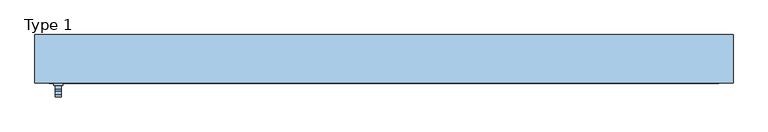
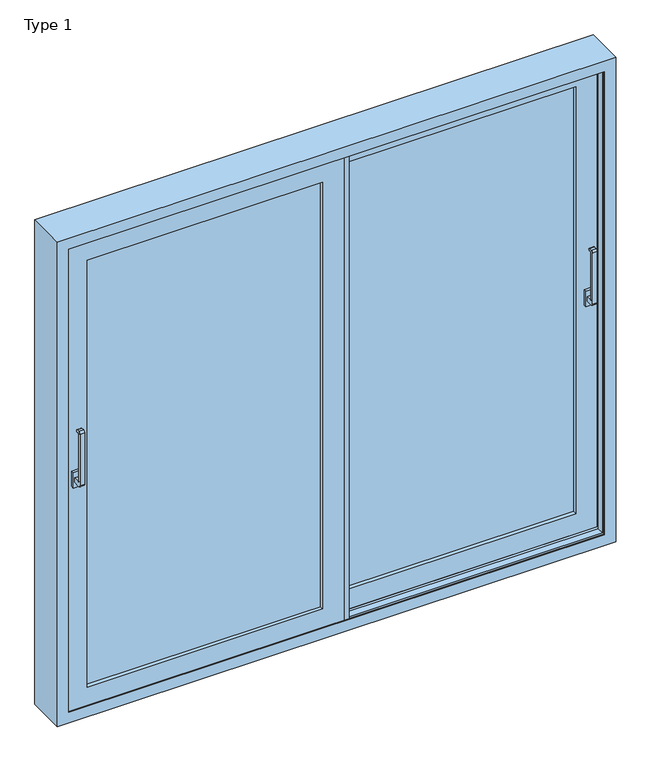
"""IFC4 building model written with IfcOpenShell, lengths in millimetres: window geometry, ETEM_E50_Double_Fly Screen_Lift_Sliding : Type 1."""

from ifc_helpers import new_model, si_unit, point, frame, frame_2d, origin, place, context, project, spatial, polyline, circle_curve, ellipse_curve, trimmed, segment, composite_curve, outline, extrude, faceted_brep, source, transform, mapped, element, save
from ifc_brep_helpers import plane_surface, cylinder_surface, revolved_surface, advanced_brep


def type_1_c6146090(model_context):
    return source(origin(), model_context, "Body", "SolidModel", [
        extrude(outline(polyline([(1135.0, -4.2), (1105.0, -4.2), (1105.0, 8.8), (1135.0, 8.8), (1135.0, -4.2)])), frame((0.0, 0.0, 1065.0), z_axis=(0.0, 0.0, 1.0), x_axis=(1.0, 0.0, 0.0)), (0.0, 0.0, 1.0), 70.0),
        extrude(outline(composite_curve([segment(polyline([(-4.2, 1090.0), (-35.7736848, 1090.0)]), True, "CONTINUOUS"), segment(trimmed(circle_curve(frame_2d((-35.7736848, 1098.4263152)), 8.4263152), [point((-35.7736848, 1090.0))], [point((-44.2, 1098.4263152))], False, "CARTESIAN"), True, "CONTINUOUS"), segment(polyline([(-44.2, 1098.4263152), (-44.2, 1331.5736848)]), True, "CONTINUOUS"), segment(trimmed(circle_curve(frame_2d((-35.7736848, 1331.5736848)), 8.4263152), [point((-44.2, 1331.5736848))], [point((-35.7736848, 1340.0))], False, "CARTESIAN"), True, "CONTINUOUS"), segment(polyline([(-35.7736848, 1340.0), (-24.2, 1340.0)]), True, "CONTINUOUS"), segment(trimmed(circle_curve(frame_2d((-24.2, 1335.0)), 5.0), [point((-24.2, 1340.0))], [point((-24.2, 1330.0))], False, "CARTESIAN"), True, "CONTINUOUS"), segment(polyline([(-24.2, 1330.0), (-30.6644661, 1330.0)]), True, "CONTINUOUS"), segment(trimmed(circle_curve(frame_2d((-30.6644661, 1326.4644661)), 3.5355339), [point((-30.6644661, 1330.0))], [point((-34.2, 1326.4644661))], True, "CARTESIAN"), True, "CONTINUOUS"), segment(polyline([(-34.2, 1326.4644661), (-34.2, 1113.5355339)]), True, "CONTINUOUS"), segment(trimmed(circle_curve(frame_2d((-30.6644661, 1113.5355339)), 3.5355339), [point((-34.2, 1113.5355339))], [point((-30.6644661, 1110.0))], True, "CARTESIAN"), True, "CONTINUOUS"), segment(polyline([(-30.6644661, 1110.0), (-4.2, 1110.0), (-4.2, 1090.0)]), True, "CONTINUOUS")], self_intersect=False)), frame((1110.0, 0.0, 0.0), z_axis=(1.0, 0.0, 0.0), x_axis=(0.0, 1.0, 0.0)), (0.0, 0.0, 1.0), 20.0),
        extrude(outline(polyline([(-1104.999965, -69.2), (-1134.999965, -69.2), (-1134.999965, -56.2), (-1104.999965, -56.2), (-1104.999965, -69.2)])), frame((0.0, 0.0, 1065.0), z_axis=(0.0, 0.0, 1.0), x_axis=(1.0, 0.0, 0.0)), (0.0, 0.0, 1.0), 70.0),
        extrude(outline(composite_curve([segment(polyline([(-69.2, 1090.0), (-100.7736848, 1090.0)]), True, "CONTINUOUS"), segment(trimmed(circle_curve(frame_2d((-100.7736848, 1098.4263152)), 8.4263152), [point((-100.7736848, 1090.0))], [point((-109.2, 1098.4263152))], False, "CARTESIAN"), True, "CONTINUOUS"), segment(polyline([(-109.2, 1098.4263152), (-109.2, 1331.5736848)]), True, "CONTINUOUS"), segment(trimmed(circle_curve(frame_2d((-100.7736848, 1331.5736848)), 8.4263152), [point((-109.2, 1331.5736848))], [point((-100.7736848, 1340.0))], False, "CARTESIAN"), True, "CONTINUOUS"), segment(polyline([(-100.7736848, 1340.0), (-89.2, 1340.0)]), True, "CONTINUOUS"), segment(trimmed(circle_curve(frame_2d((-89.2, 1335.0)), 5.0), [point((-89.2, 1340.0))], [point((-89.2, 1330.0))], False, "CARTESIAN"), True, "CONTINUOUS"), segment(polyline([(-89.2, 1330.0), (-95.6644661, 1330.0)]), True, "CONTINUOUS"), segment(trimmed(circle_curve(frame_2d((-95.6644661, 1326.4644661)), 3.5355339), [point((-95.6644661, 1330.0))], [point((-99.2, 1326.4644661))], True, "CARTESIAN"), True, "CONTINUOUS"), segment(polyline([(-99.2, 1326.4644661), (-99.2, 1113.5355339)]), True, "CONTINUOUS"), segment(trimmed(circle_curve(frame_2d((-95.6644661, 1113.5355339)), 3.5355339), [point((-99.2, 1113.5355339))], [point((-95.6644661, 1110.0))], True, "CARTESIAN"), True, "CONTINUOUS"), segment(polyline([(-95.6644661, 1110.0), (-69.2, 1110.0), (-69.2, 1090.0)]), True, "CONTINUOUS")], self_intersect=False)), frame((-1129.999965, 0.0, 0.0), z_axis=(1.0, 0.0, 0.0), x_axis=(0.0, 1.0, 0.0)), (0.0, 0.0, 1.0), 20.0),
        faceted_brep([(-56.0, -56.2, 2069.0), (-56.0, -6.2, 2069.0), (-56.0, -6.2, 131.0), (-56.0, -56.2, 131.0), (35.5, -6.2, 39.5), (-1160.499965, -6.2, 39.5), (-1160.499965, -6.2, 2160.5), (35.5, -6.2, 2160.5), (-1068.999965, -6.2, 2069.0), (-1068.999965, -6.2, 131.0), (-1068.999965, -56.2, 131.0), (35.5, -56.2, 2160.5), (-1160.499965, -56.2, 2160.5), (-1160.499965, -56.2, 39.5), (35.5, -56.2, 39.5), (-1068.999965, -56.2, 2069.0), (35.5, -51.5, 2160.5), (35.5, -51.5, 39.5), (-1160.499965, -51.5, 39.5), (-1160.499965, -51.5, 2160.5), (6.3, -51.5, 2131.3), (-1131.299965, -51.5, 2131.3), (-1131.299965, -51.5, 68.7), (6.3, -51.5, 68.7), (6.3, -10.9, 2131.3), (6.3, -10.9, 68.7), (-1131.299965, -10.9, 68.7), (35.5, -10.9, 2160.5), (-1160.499965, -10.9, 2160.5), (-1160.499965, -10.9, 39.5), (35.5, -10.9, 39.5), (-1131.299965, -10.9, 2131.3)], [[[0, 1, 2, 3]], [[4, 5, 6, 7], [1, 8, 9, 2]], [[3, 2, 9, 10]], [[11, 12, 13, 14], [3, 10, 15, 0]], [[16, 11, 14, 17]], [[17, 14, 13, 18]], [[17, 18, 19, 16], [20, 21, 22, 23]], [[24, 20, 23, 25]], [[25, 23, 22, 26]], [[27, 28, 29, 30], [25, 26, 31, 24]], [[7, 27, 30, 4]], [[4, 30, 29, 5]], [[10, 9, 8, 15]], [[18, 13, 12, 19]], [[26, 22, 21, 31]], [[5, 29, 28, 6]], [[15, 8, 1, 0]], [[19, 12, 11, 16]], [[31, 21, 20, 24]], [[6, 28, 27, 7]]]),
        faceted_brep([(56.0, 58.8, 2069.0), (56.0, 8.8, 2069.0), (56.0, 8.8, 131.0), (56.0, 58.8, 131.0), (1068.999965, 8.8, 131.0), (1068.999965, 58.8, 131.0), (1160.499965, 8.8, 39.5), (1160.499965, 8.8, 2160.5), (-35.5, 8.8, 2160.5), (-35.5, 8.8, 39.5), (1068.999965, 8.8, 2069.0), (1068.999965, 58.8, 2069.0), (-35.5, 58.8, 39.5), (-35.5, 58.8, 2160.5), (1160.499965, 58.8, 2160.5), (1160.499965, 58.8, 39.5), (-35.5, 54.1, 2160.5), (-35.5, 54.1, 39.5), (1160.499965, 54.1, 39.5), (1160.499965, 54.1, 2160.5), (-6.3, 54.1, 68.7), (-6.3, 54.1, 2131.3), (1131.299965, 54.1, 2131.3), (1131.299965, 54.1, 68.7), (-6.3, 13.5, 2131.3), (-6.3, 13.5, 68.7), (1131.299965, 13.5, 68.7), (1131.299965, 13.5, 2131.3), (-35.5, 13.5, 39.5), (-35.5, 13.5, 2160.5), (1160.499965, 13.5, 2160.5), (1160.499965, 13.5, 39.5)], [[[0, 1, 2, 3]], [[3, 2, 4, 5]], [[6, 7, 8, 9], [2, 1, 10, 4]], [[5, 4, 10, 11]], [[12, 13, 14, 15], [5, 11, 0, 3]], [[16, 13, 12, 17]], [[17, 12, 15, 18]], [[18, 15, 14, 19]], [[18, 19, 16, 17], [20, 21, 22, 23]], [[24, 21, 20, 25]], [[25, 20, 23, 26]], [[26, 23, 22, 27]], [[28, 29, 30, 31], [26, 27, 24, 25]], [[8, 29, 28, 9]], [[9, 28, 31, 6]], [[6, 31, 30, 7]], [[11, 10, 1, 0]], [[19, 14, 13, 16]], [[27, 22, 21, 24]], [[7, 30, 29, 8]]]),
        extrude(outline(polyline([(56.0, -56.2), (35.5, -56.2), (35.5, 4.8), (56.0, 4.8), (56.0, -56.2)])), frame((0.0, 0.0, 39.5), z_axis=(0.0, 0.0, 1.0), x_axis=(1.0, 0.0, 0.0)), (0.0, 0.0, 1.0), 2121.0),
        extrude(outline(polyline([(-56.0, -2.2), (-56.0, 58.8), (-35.5, 58.8), (-35.5, -2.2), (-56.0, -2.2)])), frame((0.0, 0.0, 39.5), z_axis=(0.0, 0.0, 1.0), x_axis=(1.0, 0.0, 0.0)), (0.0, 0.0, 1.0), 2121.0),
        extrude(outline(polyline([(-56.0, -40.2), (-1068.999965, -40.2), (-1068.999965, -35.2), (-56.0, -35.2), (-56.0, -40.2)])), frame((0.0, 0.0, 131.0), z_axis=(0.0, 0.0, 1.0), x_axis=(1.0, 0.0, 0.0)), (0.0, 0.0, 1.0), 1938.0),
        extrude(outline(polyline([(56.0, 50.7998789), (1068.999965, 50.7998789), (1068.999965, 45.7998789), (56.0, 45.7998789), (56.0, 50.7998789)])), frame((0.0, 0.0, 131.0), z_axis=(0.0, 0.0, 1.0), x_axis=(1.0, 0.0, 0.0)), (0.0, 0.0, 1.0), 1938.0),
        faceted_brep([(1200.0, 105.0, 2200.0), (1200.0, -61.8, 2200.0), (1200.0, -61.8, 0.0), (1200.0, 105.0, 0.0), (-1200.0, -61.8, 2200.0), (-1200.0, -61.8, 0.0), (1151.5, -61.8, 48.5), (-1151.5, -61.8, 48.5), (-1151.5, -61.8, 2151.5), (1151.5, -61.8, 2151.5), (-1200.0, 105.0, 0.0), (-1200.0, 105.0, 2200.0), (1180.2, 105.0, 2180.2), (-1180.2, 105.0, 2180.2), (-1180.2, 105.0, 19.8), (1180.2, 105.0, 19.8), (1178.2, 89.3, 2178.2), (1178.2, 93.5, 2178.2), (1178.2, 93.5, 21.8), (1178.2, 89.3, 21.8), (-1178.2, 93.5, 21.8), (-1178.2, 89.3, 21.8), (-1178.2, 89.3, 2178.2), (1159.5, 89.3, 2159.5), (-1159.5, 89.3, 2159.5), (-1159.5, 89.3, 40.5), (1159.5, 89.3, 40.5), (1159.5, 90.8, 2159.5), (1159.5, 90.8, 40.5), (-1159.5, 90.8, 40.5), (-1159.5, 90.8, 2159.5), (1151.5, 90.8, 2151.5), (-1151.5, 90.8, 2151.5), (-1151.5, 90.8, 48.5), (1151.5, 90.8, 48.5), (1151.5, 78.8, 2151.5), (1151.5, 78.8, 48.5), (-1151.5, 78.8, 48.5), (1159.5, 78.8, 2159.5), (-1159.5, 78.8, 2159.5), (-1159.5, 78.8, 40.5), (1159.5, 78.8, 40.5), (-1151.5, 78.8, 2151.5), (1159.5, 80.3, 2159.5), (1159.5, 80.3, 40.5), (-1159.5, 80.3, 40.5), (1178.2, 80.3, 2178.2), (-1178.2, 80.3, 2178.2), (-1178.2, 80.3, 21.8), (1178.2, 80.3, 21.8), (-1159.5, 80.3, 2159.5), (1178.2, 38.3, 2178.2), (1178.2, 38.3, 21.8), (-1178.2, 38.3, 21.8), (-1178.2, 38.3, 2178.2), (1159.5, 38.3, 2159.5), (-1159.5, 38.3, 2159.5), (-1159.5, 38.3, 40.5), (1159.5, 38.3, 40.5), (1159.5, 49.8, 2159.5), (1159.5, 49.8, 40.5), (-1159.5, 49.8, 40.5), (-1159.5, 49.8, 2159.5), (1151.5, 49.8, 2151.5), (-1151.5, 49.8, 2151.5), (-1151.5, 49.8, 48.5), (1151.5, 49.8, 48.5), (1151.5, 17.8, 2151.5), (1151.5, 17.8, 48.5), (-1151.5, 17.8, 48.5), (1159.5, 17.8, 2159.5), (-1159.5, 17.8, 2159.5), (-1159.5, 17.8, 40.5), (1159.5, 17.8, 40.5), (-1151.5, 17.8, 2151.5), (1159.5, 29.3, 2159.5), (1159.5, 29.3, 40.5), (-1159.5, 29.3, 40.5), (1178.2, 29.3, 2178.2), (-1178.2, 29.3, 2178.2), (-1178.2, 29.3, 21.8), (1178.2, 29.3, 21.8), (-1159.5, 29.3, 2159.5), (1178.2, -26.7, 2178.2), (1178.2, -26.7, 21.8), (-1178.2, -26.7, 21.8), (-1178.2, -26.7, 2178.2), (1159.5, -26.7, 2159.5), (-1159.5, -26.7, 2159.5), (-1159.5, -26.7, 40.5), (1159.5, -26.7, 40.5), (1159.5, -15.2, 2159.5), (1159.5, -15.2, 40.5), (-1159.5, -15.2, 40.5), (-1159.5, -15.2, 2159.5), (1151.5, -15.2, 2151.5), (-1151.5, -15.2, 2151.5), (-1151.5, -15.2, 48.5), (1151.5, -15.2, 48.5), (1151.5, -47.2, 2151.5), (1151.5, -47.2, 48.5), (-1151.5, -47.2, 48.5), (1159.5, -47.2, 2159.5), (-1159.5, -47.2, 2159.5), (-1159.5, -47.2, 40.5), (1159.5, -47.2, 40.5), (-1151.5, -47.2, 2151.5), (1159.5, -35.7, 2159.5), (1159.5, -35.7, 40.5), (-1159.5, -35.7, 40.5), (1178.2, -35.7, 2178.2), (-1178.2, -35.7, 2178.2), (-1178.2, -35.7, 21.8), (1178.2, -35.7, 21.8), (-1159.5, -35.7, 2159.5), (1178.2, -58.2, 2178.2), (1178.2, -58.2, 21.8), (-1178.2, -58.2, 21.8), (-1178.2, -58.2, 2178.2), (1151.5, -58.2, 2151.5), (-1151.5, -58.2, 2151.5), (-1151.5, -58.2, 48.5), (1151.5, -58.2, 48.5), (-1178.2, 93.5, 2178.2), (1180.2, 93.5, 19.8), (-1180.2, 93.5, 19.8), (-1180.2, 93.5, 2180.2), (1180.2, 93.5, 2180.2)], [[[0, 1, 2, 3]], [[1, 4, 5, 2], [6, 7, 8, 9]], [[3, 2, 5, 10]], [[3, 10, 11, 0], [12, 13, 14, 15]], [[16, 17, 18, 19]], [[19, 18, 20, 21]], [[19, 21, 22, 16], [23, 24, 25, 26]], [[27, 23, 26, 28]], [[28, 26, 25, 29]], [[28, 29, 30, 27], [31, 32, 33, 34]], [[35, 31, 34, 36]], [[36, 34, 33, 37]], [[38, 39, 40, 41], [36, 37, 42, 35]], [[43, 38, 41, 44]], [[44, 41, 40, 45]], [[46, 47, 48, 49], [44, 45, 50, 43]], [[51, 46, 49, 52]], [[52, 49, 48, 53]], [[52, 53, 54, 51], [55, 56, 57, 58]], [[59, 55, 58, 60]], [[60, 58, 57, 61]], [[60, 61, 62, 59], [63, 64, 65, 66]], [[67, 63, 66, 68]], [[68, 66, 65, 69]], [[70, 71, 72, 73], [68, 69, 74, 67]], [[75, 70, 73, 76]], [[76, 73, 72, 77]], [[78, 79, 80, 81], [76, 77, 82, 75]], [[83, 78, 81, 84]], [[84, 81, 80, 85]], [[84, 85, 86, 83], [87, 88, 89, 90]], [[91, 87, 90, 92]], [[92, 90, 89, 93]], [[92, 93, 94, 91], [95, 96, 97, 98]], [[99, 95, 98, 100]], [[100, 98, 97, 101]], [[102, 103, 104, 105], [100, 101, 106, 99]], [[107, 102, 105, 108]], [[108, 105, 104, 109]], [[110, 111, 112, 113], [108, 109, 114, 107]], [[115, 110, 113, 116]], [[116, 113, 112, 117]], [[116, 117, 118, 115], [119, 120, 121, 122]], [[9, 119, 122, 6]], [[6, 122, 121, 7]], [[10, 5, 4, 11]], [[21, 20, 123, 22]], [[29, 25, 24, 30]], [[37, 33, 32, 42]], [[45, 40, 39, 50]], [[53, 48, 47, 54]], [[61, 57, 56, 62]], [[69, 65, 64, 74]], [[77, 72, 71, 82]], [[85, 80, 79, 86]], [[93, 89, 88, 94]], [[101, 97, 96, 106]], [[109, 104, 103, 114]], [[117, 112, 111, 118]], [[7, 121, 120, 8]], [[11, 4, 1, 0]], [[22, 123, 17, 16]], [[30, 24, 23, 27]], [[42, 32, 31, 35]], [[50, 39, 38, 43]], [[54, 47, 46, 51]], [[62, 56, 55, 59]], [[74, 64, 63, 67]], [[82, 71, 70, 75]], [[86, 79, 78, 83]], [[94, 88, 87, 91]], [[106, 96, 95, 99]], [[114, 103, 102, 107]], [[118, 111, 110, 115]], [[8, 120, 119, 9]], [[124, 125, 126, 127], [17, 123, 20, 18]], [[125, 14, 13, 126]], [[124, 15, 14, 125]], [[127, 12, 15, 124]], [[126, 13, 12, 127]]]),
        extrude(outline(polyline([(56.0, 29.8), (1068.999965, 29.8), (1068.999965, 24.8), (56.0, 24.8), (56.0, 29.8)])), frame((0.0, 0.0, 131.0), z_axis=(0.0, 0.0, 1.0), x_axis=(1.0, 0.0, 0.0)), (0.0, 0.0, 1.0), 1938.0),
        extrude(outline(polyline([(-56.0, -19.2001211), (-1068.999965, -19.2001211), (-1068.999965, -14.2001211), (-56.0, -14.2001211), (-56.0, -19.2001211)])), frame((0.0, 0.0, 131.0), z_axis=(0.0, 0.0, 1.0), x_axis=(1.0, 0.0, 0.0)), (0.0, 0.0, 1.0), 1938.0),
        extrude(outline(polyline([(-52.0, 73.8), (-1089.499965, 73.8), (-1089.499965, 74.8), (-52.0, 74.8), (-52.0, 73.8)])), frame((0.0, 0.0, 110.5), z_axis=(0.0, 0.0, 1.0), x_axis=(1.0, 0.0, 0.0)), (0.0, 0.0, 1.0), 1979.0),
        advanced_brep(
        [(19.0, 73.1542487, 2160.5), (16.0, 71.8, 2157.5), (16.0, 71.8, 42.5), (19.0, 73.1542487, 39.5), (-1157.499965, 71.8, 2157.5), (-1157.499965, 71.8, 42.5), (-27.2, 71.8, 85.7), (-1114.299965, 71.8, 85.7), (-1114.299965, 71.8, 2114.3), (-27.2, 71.8, 2114.3), (-1160.499965, 73.1542487, 39.5), (19.0, 76.3, 2160.5), (19.0, 76.3, 39.5), (-1160.499965, 76.3, 39.5), (-1160.499965, 76.3, 2160.5), (8.7, 76.3, 2150.2), (-1150.199965, 76.3, 2150.2), (-1150.199965, 76.3, 49.8), (8.7, 76.3, 49.8), (8.7, 93.3, 2150.2), (8.7, 93.3, 49.8), (-1150.199965, 93.3, 49.8), (19.0, 93.3, 2160.5), (-1160.499965, 93.3, 2160.5), (-1160.499965, 93.3, 39.5), (19.0, 93.3, 39.5), (-1150.199965, 93.3, 2150.2), (19.0, 96.4457513, 2160.5), (19.0, 96.4457513, 39.5), (-1160.499965, 96.4457513, 39.5), (16.0, 97.8, 2157.5), (16.0, 97.8, 42.5), (-1157.499965, 97.8, 42.5), (-1157.499965, 97.8, 2157.5), (-27.2, 97.8, 2114.3), (-1114.299965, 97.8, 2114.3), (-1114.299965, 97.8, 85.7), (-27.2, 97.8, 85.7), (-56.0, 74.8, 2085.5), (-56.0, 93.8, 2085.5), (-56.0, 93.8, 114.5), (-56.0, 74.8, 114.5), (-52.7058823, 97.7372237, 2088.7941177), (-52.7058823, 97.7372237, 111.2058823), (-1085.499965, 93.8, 114.5), (-1085.499965, 74.8, 114.5), (-48.6, 74.8, 2092.9), (-1092.899965, 74.8, 2092.9), (-1092.899965, 74.8, 107.1), (-48.6, 74.8, 107.1), (-1085.499965, 74.8, 2085.5), (-1160.499965, 73.1542487, 2160.5), (-1160.499965, 96.4457513, 2160.5), (-1088.7940826, 97.7372237, 111.2058823), (-1085.499965, 93.8, 2085.5), (-1088.7940826, 97.7372237, 2088.7941177), (-27.2, 80.1, 85.7), (-1114.299965, 80.1, 85.7), (-1114.299965, 80.1, 2114.3), (-27.2, 80.1, 2114.3), (-1114.299965, 89.5, 85.7), (-1114.299965, 89.5, 2114.3), (-27.2, 89.5, 85.7), (-27.2, 89.5, 2114.3), (-47.4, 80.1, 2094.1), (-47.4, 73.5, 2094.1), (-47.4, 73.5, 105.9), (-47.4, 80.1, 105.9), (-46.8547321, 73.0020534, 2094.6452679), (-46.8547321, 73.0020534, 105.3547321), (-1094.099965, 73.5, 105.9), (-1094.099965, 80.1, 105.9), (-1094.099965, 80.1, 2094.1), (-53.6, 89.5, 2087.9), (-1087.899965, 89.5, 2087.9), (-1087.899965, 89.5, 112.1), (-53.6, 89.5, 112.1), (-54.8, 90.7, 2086.7), (-54.8, 90.7, 113.3), (-1086.699965, 90.7, 113.3), (-54.8, 93.8, 2086.7), (-54.8, 93.8, 113.3), (-1086.699965, 93.8, 113.3), (-52.4941176, 96.5560566, 2089.0058824), (-52.4941176, 96.5560566, 110.9941176), (-1089.0058474, 96.5560566, 110.9941176), (-1094.6452329, 73.0020534, 105.3547321), (-1094.099965, 73.5, 2094.1), (-1086.699965, 90.7, 2086.7), (-1086.699965, 93.8, 2086.7), (-1089.0058474, 96.5560566, 2089.0058824), (-1094.6452329, 73.0020534, 2094.6452679), (-1092.899965, 71.8, 107.1), (-1092.899965, 71.8, 2092.9), (-48.6, 71.8, 107.1), (-48.6, 71.8, 2092.9), (-46.8, 71.8, 2094.7), (-1094.699965, 71.8, 2094.7), (-1094.699965, 71.8, 105.3), (-46.8, 71.8, 105.3)],
        [
            (0, 1, ellipse_curve(frame((16.0, 75.8, 2157.5), z_axis=(0.7071067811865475, 0.0, -0.7071067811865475), x_axis=(0.7071067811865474, 0.0, 0.7071067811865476)), 5.6568542, 4.0)),
            (1, 2),
            (2, 3, ellipse_curve(frame((16.0, 75.8, 42.5), z_axis=(0.7071067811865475, 0.0, 0.7071067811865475), x_axis=(-0.7071067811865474, 0.0, 0.7071067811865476)), 5.6568542, 4.0)),
            (3, 0),
            (1, 4),
            (4, 5),
            (5, 2),
            (6, 7),
            (7, 8),
            (8, 9),
            (9, 6),
            (5, 10, ellipse_curve(frame((-1157.499965, 75.8, 42.5), z_axis=(0.7071067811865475, 0.0, -0.7071067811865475), x_axis=(0.7071067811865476, 0.0, 0.7071067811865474)), 5.6568542, 4.0)),
            (10, 3),
            (11, 0),
            (3, 12),
            (12, 11),
            (10, 13),
            (13, 12),
            (13, 14),
            (14, 11),
            (15, 16),
            (16, 17),
            (17, 18),
            (18, 15),
            (19, 15),
            (18, 20),
            (20, 19),
            (17, 21),
            (21, 20),
            (22, 23),
            (23, 24),
            (24, 25),
            (25, 22),
            (21, 26),
            (26, 19),
            (27, 22),
            (25, 28),
            (28, 27),
            (24, 29),
            (29, 28),
            (30, 27, ellipse_curve(frame((16.0, 93.8, 2157.5), z_axis=(0.7071067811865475, 0.0, -0.7071067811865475), x_axis=(0.7071067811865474, 0.0, 0.7071067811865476)), 5.6568542, 4.0)),
            (28, 31, ellipse_curve(frame((16.0, 93.8, 42.5), z_axis=(0.7071067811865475, 0.0, 0.7071067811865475), x_axis=(-0.7071067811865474, 0.0, 0.7071067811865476)), 5.6568542, 4.0)),
            (31, 30),
            (29, 32, ellipse_curve(frame((-1157.499965, 93.8, 42.5), z_axis=(0.7071067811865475, 0.0, -0.7071067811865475), x_axis=(0.7071067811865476, 0.0, 0.7071067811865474)), 5.6568542, 4.0)),
            (32, 31),
            (32, 33),
            (33, 30),
            (34, 35),
            (35, 36),
            (36, 37),
            (37, 34),
            (38, 39),
            (39, 40),
            (40, 41),
            (41, 38),
            (39, 42, ellipse_curve(frame((-52.0, 93.8, 2089.5), z_axis=(0.7071067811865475, 0.0, -0.7071067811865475), x_axis=(0.7071067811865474, 0.0, 0.7071067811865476)), 5.6568542, 4.0)),
            (42, 43),
            (43, 40, ellipse_curve(frame((-52.0, 93.8, 110.5), z_axis=(0.7071067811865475, 0.0, 0.7071067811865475), x_axis=(-0.7071067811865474, 0.0, 0.7071067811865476)), 5.6568542, 4.0)),
            (40, 44),
            (44, 45),
            (45, 41),
            (46, 47),
            (47, 48),
            (48, 49),
            (49, 46),
            (45, 50),
            (50, 38),
            (4, 51, ellipse_curve(frame((-1157.499965, 75.8, 2157.5), z_axis=(-0.7071067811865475, 0.0, -0.7071067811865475), x_axis=(0.7071067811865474, 0.0, -0.7071067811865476)), 5.6568542, 4.0)),
            (51, 10),
            (51, 14),
            (16, 26),
            (23, 52),
            (52, 29),
            (52, 33, ellipse_curve(frame((-1157.499965, 93.8, 2157.5), z_axis=(-0.7071067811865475, 0.0, -0.7071067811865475), x_axis=(0.7071067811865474, 0.0, -0.7071067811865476)), 5.6568542, 4.0)),
            (43, 53),
            (53, 44, ellipse_curve(frame((-1089.499965, 93.8, 110.5), z_axis=(0.7071067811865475, 0.0, -0.7071067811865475), x_axis=(0.7071067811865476, 0.0, 0.7071067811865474)), 5.6568542, 4.0)),
            (44, 54),
            (54, 50),
            (53, 55),
            (55, 54, ellipse_curve(frame((-1089.499965, 93.8, 2089.5), z_axis=(-0.7071067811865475, 0.0, -0.7071067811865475), x_axis=(0.7071067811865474, 0.0, -0.7071067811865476)), 5.6568542, 4.0)),
            (6, 56),
            (56, 57),
            (57, 7),
            (57, 58),
            (58, 8),
            (9, 59),
            (59, 56),
            (60, 36),
            (35, 61),
            (61, 60),
            (62, 37),
            (60, 62),
            (63, 34),
            (62, 63),
            (64, 65),
            (65, 66),
            (66, 67),
            (67, 64),
            (65, 68, ellipse_curve(frame((-46.9, 73.5, 2094.6), z_axis=(-0.7071067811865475, 0.0, 0.7071067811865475), x_axis=(-0.7071067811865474, 0.0, -0.7071067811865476)), 0.7071068, 0.5)),
            (68, 69),
            (69, 66, ellipse_curve(frame((-46.9, 73.5, 105.4), z_axis=(-0.7071067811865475, 0.0, -0.7071067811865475), x_axis=(0.7071067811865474, 0.0, -0.7071067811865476)), 0.7071068, 0.5)),
            (66, 70),
            (70, 71),
            (71, 67),
            (59, 58),
            (71, 72),
            (72, 64),
            (61, 63),
            (73, 74),
            (74, 75),
            (75, 76),
            (76, 73),
            (77, 73, ellipse_curve(frame((-53.6, 90.7, 2087.9), z_axis=(-0.7071067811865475, 0.0, 0.7071067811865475), x_axis=(-0.7071067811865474, 0.0, -0.7071067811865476)), 1.6970563, 1.2)),
            (76, 78, ellipse_curve(frame((-53.6, 90.7, 112.1), z_axis=(-0.7071067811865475, 0.0, -0.7071067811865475), x_axis=(0.7071067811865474, 0.0, -0.7071067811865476)), 1.6970563, 1.2)),
            (78, 77),
            (75, 79, ellipse_curve(frame((-1087.899965, 90.7, 112.1), z_axis=(-0.7071067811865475, 0.0, 0.7071067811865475), x_axis=(-0.7071067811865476, 0.0, -0.7071067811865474)), 1.6970563, 1.2)),
            (79, 78),
            (80, 77),
            (78, 81),
            (81, 80),
            (79, 82),
            (82, 81),
            (83, 80, ellipse_curve(frame((-52.0, 93.8, 2089.5), z_axis=(-0.7071067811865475, 0.0, 0.7071067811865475), x_axis=(-0.7071067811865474, 0.0, -0.7071067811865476)), 3.959798, 2.8)),
            (81, 84, ellipse_curve(frame((-52.0, 93.8, 110.5), z_axis=(-0.7071067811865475, 0.0, -0.7071067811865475), x_axis=(0.7071067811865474, 0.0, -0.7071067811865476)), 3.959798, 2.8)),
            (84, 83),
            (82, 85, ellipse_curve(frame((-1089.499965, 93.8, 110.5), z_axis=(-0.7071067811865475, 0.0, 0.7071067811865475), x_axis=(-0.7071067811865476, 0.0, -0.7071067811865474)), 3.959798, 2.8)),
            (85, 84),
            (42, 83, ellipse_curve(frame((-52.6, 97.1466401, 2088.9), z_axis=(0.7071067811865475, 0.0, -0.7071067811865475), x_axis=(0.7071067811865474, 0.0, 0.7071067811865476)), 0.8485281, 0.6)),
            (84, 43, ellipse_curve(frame((-52.6, 97.1466401, 111.1), z_axis=(0.7071067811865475, 0.0, 0.7071067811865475), x_axis=(-0.7071067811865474, 0.0, 0.7071067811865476)), 0.8485281, 0.6)),
            (85, 53, ellipse_curve(frame((-1088.899965, 97.1466401, 111.1), z_axis=(0.7071067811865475, 0.0, -0.7071067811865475), x_axis=(0.7071067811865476, 0.0, 0.7071067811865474)), 0.8485281, 0.6)),
            (69, 86),
            (86, 70, ellipse_curve(frame((-1094.599965, 73.5, 105.4), z_axis=(-0.7071067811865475, 0.0, 0.7071067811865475), x_axis=(-0.7071067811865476, 0.0, -0.7071067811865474)), 0.7071068, 0.5)),
            (70, 87),
            (87, 72),
            (74, 88, ellipse_curve(frame((-1087.899965, 90.7, 2087.9), z_axis=(0.7071067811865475, 0.0, 0.7071067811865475), x_axis=(-0.7071067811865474, 0.0, 0.7071067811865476)), 1.6970563, 1.2)),
            (88, 79),
            (88, 89),
            (89, 82),
            (89, 90, ellipse_curve(frame((-1089.499965, 93.8, 2089.5), z_axis=(0.7071067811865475, 0.0, 0.7071067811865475), x_axis=(-0.7071067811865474, 0.0, 0.7071067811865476)), 3.959798, 2.8)),
            (90, 85),
            (90, 55, ellipse_curve(frame((-1088.899965, 97.1466401, 2088.9), z_axis=(-0.7071067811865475, 0.0, -0.7071067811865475), x_axis=(0.7071067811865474, 0.0, -0.7071067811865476)), 0.8485281, 0.6)),
            (86, 91),
            (91, 87, ellipse_curve(frame((-1094.599965, 73.5, 2094.6), z_axis=(0.7071067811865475, 0.0, 0.7071067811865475), x_axis=(-0.7071067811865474, 0.0, 0.7071067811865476)), 0.7071068, 0.5)),
            (92, 48),
            (47, 93),
            (93, 92),
            (94, 49),
            (92, 94),
            (95, 46),
            (94, 95),
            (96, 97),
            (97, 98),
            (98, 99),
            (99, 96),
            (93, 95),
            (86, 98, ellipse_curve(frame((-1094.699965, 72.4, 105.3), z_axis=(-0.7071067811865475, 0.0, 0.7071067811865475), x_axis=(-0.7071067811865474, 0.0, -0.7071067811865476)), 0.8485281, 0.6)),
            (97, 91, ellipse_curve(frame((-1094.699965, 72.4, 2094.7), z_axis=(-0.7071067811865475, 0.0, -0.7071067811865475), x_axis=(0.7071067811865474, 0.0, -0.7071067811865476)), 0.8485281, 0.6)),
            (69, 99, ellipse_curve(frame((-46.8, 72.4, 105.3), z_axis=(-0.7071067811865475, 0.0, -0.7071067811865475), x_axis=(0.7071067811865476, 0.0, -0.7071067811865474)), 0.8485281, 0.6)),
            (68, 96, ellipse_curve(frame((-46.8, 72.4, 2094.7), z_axis=(0.7071067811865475, 0.0, -0.7071067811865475), x_axis=(0.7071067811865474, 0.0, 0.7071067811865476)), 0.8485281, 0.6)),
            (0, 51),
            (27, 52),
            (54, 39),
            (87, 65),
            (77, 88),
            (80, 89),
            (83, 90),
            (42, 55),
            (68, 91),
        ],
        [
            cylinder_surface(frame((16.0, 75.8, 2160.5), z_axis=(0.0, 0.0, 1.0), x_axis=(1.0, 0.0, 0.0)), 4.0),
            plane_surface(frame((-1114.299965, 71.8, 2114.3), z_axis=(0.0, -1.0, 0.0), x_axis=(1.0, 0.0, 0.0))),
            cylinder_surface(frame((19.0, 75.8, 42.5), z_axis=(1.0, 0.0, 0.0), x_axis=(0.0, 0.0, -1.0)), 4.0),
            plane_surface(frame((19.0, 73.1542487, 2160.5), z_axis=(1.0, 0.0, 0.0), x_axis=(0.0, 0.0, -1.0))),
            plane_surface(frame((19.0, 73.1542487, 39.5), z_axis=(0.0, 0.0, -1.0), x_axis=(-1.0, 0.0, 0.0))),
            plane_surface(frame((-1160.499965, 76.3, 2160.5), z_axis=(0.0, 1.0, 0.0), x_axis=(1.0, 0.0, 0.0))),
            plane_surface(frame((8.7, 76.3, 2150.2), z_axis=(1.0, 0.0, 0.0), x_axis=(0.0, 0.0, -1.0))),
            plane_surface(frame((8.7, 76.3, 49.8), z_axis=(0.0, 0.0, -1.0), x_axis=(-1.0, 0.0, 0.0))),
            plane_surface(frame((-1150.199965, 93.3, 2150.2), z_axis=(0.0, -1.0, 0.0), x_axis=(1.0, 0.0, 0.0))),
            plane_surface(frame((19.0, 93.3, 2160.5), z_axis=(1.0, 0.0, 0.0), x_axis=(0.0, 0.0, -1.0))),
            plane_surface(frame((19.0, 93.3, 39.5), z_axis=(0.0, 0.0, -1.0), x_axis=(-1.0, 0.0, 0.0))),
            cylinder_surface(frame((16.0, 93.8, 2160.5), z_axis=(0.0, 0.0, 1.0), x_axis=(1.0, 0.0, 0.0)), 4.0),
            cylinder_surface(frame((19.0, 93.8, 42.5), z_axis=(1.0, 0.0, 0.0), x_axis=(0.0, 0.0, -1.0)), 4.0),
            plane_surface(frame((-1157.499965, 97.8, 2157.5), z_axis=(0.0, 1.0, 0.0), x_axis=(1.0, 0.0, 0.0))),
            plane_surface(frame((-56.0, 93.8, 2085.5), z_axis=(-1.0, 0.0, 0.0), x_axis=(0.0, 0.0, -1.0))),
            cylinder_surface(frame((-52.0, 93.8, 2160.5), z_axis=(0.0, 0.0, 1.0), x_axis=(1.0, 0.0, 0.0)), 4.0),
            plane_surface(frame((-56.0, 93.8, 114.5), z_axis=(0.0, 0.0, 1.0), x_axis=(-1.0, 0.0, 0.0))),
            plane_surface(frame((-1085.499965, 74.8, 2085.5), z_axis=(0.0, -1.0, 0.0), x_axis=(1.0, 0.0, 0.0))),
            cylinder_surface(frame((-1157.499965, 75.8, 39.5), z_axis=(0.0, 0.0, -1.0), x_axis=(-1.0, 0.0, 0.0)), 4.0),
            plane_surface(frame((-1160.499965, 73.1542487, 39.5), z_axis=(-1.0, 0.0, 0.0), x_axis=(0.0, 0.0, 1.0))),
            plane_surface(frame((-1150.199965, 76.3, 49.8), z_axis=(-1.0, 0.0, 0.0), x_axis=(0.0, 0.0, 1.0))),
            plane_surface(frame((-1160.499965, 93.3, 39.5), z_axis=(-1.0, 0.0, 0.0), x_axis=(0.0, 0.0, 1.0))),
            cylinder_surface(frame((-1157.499965, 93.8, 39.5), z_axis=(0.0, 0.0, -1.0), x_axis=(-1.0, 0.0, 0.0)), 4.0),
            cylinder_surface(frame((19.0, 93.8, 110.5), z_axis=(1.0, 0.0, 0.0), x_axis=(0.0, 0.0, -1.0)), 4.0),
            plane_surface(frame((-1085.499965, 93.8, 114.5), z_axis=(1.0, 0.0, 0.0), x_axis=(0.0, 0.0, 1.0))),
            cylinder_surface(frame((-1089.499965, 93.8, 39.5), z_axis=(0.0, 0.0, -1.0), x_axis=(-1.0, 0.0, 0.0)), 4.0),
            plane_surface(frame((-27.2, 80.1, 85.7), z_axis=(0.0, 0.0, 1.0), x_axis=(-1.0, 0.0, 0.0))),
            plane_surface(frame((-1114.299965, 80.1, 85.7), z_axis=(1.0, 0.0, 0.0), x_axis=(0.0, 0.0, 1.0))),
            plane_surface(frame((-27.2, 80.1, 2114.3), z_axis=(-1.0, 0.0, 0.0), x_axis=(0.0, 0.0, -1.0))),
            plane_surface(frame((-1114.299965, 97.8, 85.7), z_axis=(1.0, 0.0, 0.0), x_axis=(0.0, 0.0, 1.0))),
            plane_surface(frame((-27.2, 97.8, 85.7), z_axis=(0.0, 0.0, 1.0), x_axis=(-1.0, 0.0, 0.0))),
            plane_surface(frame((-27.2, 97.8, 2114.3), z_axis=(-1.0, 0.0, 0.0), x_axis=(0.0, 0.0, -1.0))),
            plane_surface(frame((-47.4, 73.5, 2094.1), z_axis=(1.0, 0.0, 0.0), x_axis=(0.0, 0.0, -1.0))),
            revolved_surface(polyline([(-46.4, 73.5, 104.89999998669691), (-46.4, 73.5, 2095.100000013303)]), (-46.9, 73.5, 2160.5), (0.0, 0.0, -1.0)),
            plane_surface(frame((-47.4, 73.5, 105.9), z_axis=(0.0, 0.0, -1.0), x_axis=(-1.0, 0.0, 0.0))),
            plane_surface(frame((-1094.099965, 80.1, 2094.1), z_axis=(0.0, -1.0, 0.0), x_axis=(1.0, 0.0, 0.0))),
            plane_surface(frame((-1114.299965, 89.5, 2114.3), z_axis=(0.0, 1.0, 0.0), x_axis=(1.0, 0.0, 0.0))),
            revolved_surface(polyline([(-52.4, 90.7, 110.89999998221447), (-52.4, 90.7, 2089.1000000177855)]), (-53.6, 90.7, 2160.5), (0.0, 0.0, -1.0)),
            revolved_surface(polyline([(-1089.0999650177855, 90.7, 110.89999999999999), (-52.39999998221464, 90.7, 110.89999999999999)]), (19.0, 90.7, 112.1), (-1.0, 0.0, 0.0)),
            plane_surface(frame((-54.8, 90.7, 2086.7), z_axis=(1.0, 0.0, 0.0), x_axis=(0.0, 0.0, -1.0))),
            plane_surface(frame((-54.8, 90.7, 113.3), z_axis=(0.0, 0.0, -1.0), x_axis=(-1.0, 0.0, 0.0))),
            revolved_surface(polyline([(-49.2, 93.8, 107.69999998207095), (-49.2, 93.8, 2092.300000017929)]), (-52.0, 93.8, 2160.5), (0.0, 0.0, -1.0)),
            revolved_surface(polyline([(-1092.2999650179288, 93.8, 107.7), (-49.19999998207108, 93.8, 107.7)]), (19.0, 93.8, 110.5), (-1.0, 0.0, 0.0)),
            cylinder_surface(frame((-52.6, 97.1466401, 2160.5), z_axis=(0.0, 0.0, 1.0), x_axis=(1.0, 0.0, 0.0)), 0.6),
            cylinder_surface(frame((19.0, 97.1466401, 111.1), z_axis=(1.0, 0.0, 0.0), x_axis=(0.0, 0.0, -1.0)), 0.6),
            revolved_surface(polyline([(-1095.0999650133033, 73.5, 104.9), (-46.39999998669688, 73.5, 104.9)]), (19.0, 73.5, 105.4), (-1.0, 0.0, 0.0)),
            plane_surface(frame((-1094.099965, 73.5, 105.9), z_axis=(-1.0, 0.0, 0.0), x_axis=(0.0, 0.0, 1.0))),
            revolved_surface(polyline([(-1089.099965, 90.7, 2089.1000000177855), (-1089.099965, 90.7, 110.89999998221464)]), (-1087.899965, 90.7, 39.5), (0.0, 0.0, 1.0)),
            plane_surface(frame((-1086.699965, 90.7, 113.3), z_axis=(-1.0, 0.0, 0.0), x_axis=(0.0, 0.0, 1.0))),
            revolved_surface(polyline([(-1092.299965, 93.8, 2092.300000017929), (-1092.299965, 93.8, 107.69999998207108)]), (-1089.499965, 93.8, 39.5), (0.0, 0.0, 1.0)),
            cylinder_surface(frame((-1088.899965, 97.1466401, 39.5), z_axis=(0.0, 0.0, -1.0), x_axis=(-1.0, 0.0, 0.0)), 0.6),
            revolved_surface(polyline([(-1095.099965, 73.5, 2095.100000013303), (-1095.099965, 73.5, 104.89999998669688)]), (-1094.599965, 73.5, 39.5), (0.0, 0.0, 1.0)),
            plane_surface(frame((-1092.899965, 74.8, 107.1), z_axis=(1.0, 0.0, 0.0), x_axis=(0.0, 0.0, 1.0))),
            plane_surface(frame((-48.6, 74.8, 107.1), z_axis=(0.0, 0.0, 1.0), x_axis=(-1.0, 0.0, 0.0))),
            plane_surface(frame((-48.6, 74.8, 2092.9), z_axis=(-1.0, 0.0, 0.0), x_axis=(0.0, 0.0, -1.0))),
            plane_surface(frame((-1092.899965, 71.8, 2092.9), z_axis=(0.0, -1.0, 0.0), x_axis=(1.0, 0.0, 0.0))),
            cylinder_surface(frame((-1094.699965, 72.4, 39.5), z_axis=(0.0, 0.0, -1.0), x_axis=(-1.0, 0.0, 0.0)), 0.6),
            cylinder_surface(frame((19.0, 72.4, 105.3), z_axis=(1.0, 0.0, 0.0), x_axis=(0.0, 0.0, -1.0)), 0.6),
            cylinder_surface(frame((-46.8, 72.4, 2160.5), z_axis=(0.0, 0.0, 1.0), x_axis=(1.0, 0.0, 0.0)), 0.6),
            cylinder_surface(frame((-1160.499965, 75.8, 2157.5), z_axis=(-1.0, 0.0, 0.0), x_axis=(0.0, 0.0, 1.0)), 4.0),
            plane_surface(frame((-1160.499965, 73.1542487, 2160.5), z_axis=(0.0, 0.0, 1.0), x_axis=(1.0, 0.0, 0.0))),
            plane_surface(frame((-1150.199965, 76.3, 2150.2), z_axis=(0.0, 0.0, 1.0), x_axis=(1.0, 0.0, 0.0))),
            plane_surface(frame((-1160.499965, 93.3, 2160.5), z_axis=(0.0, 0.0, 1.0), x_axis=(1.0, 0.0, 0.0))),
            cylinder_surface(frame((-1160.499965, 93.8, 2157.5), z_axis=(-1.0, 0.0, 0.0), x_axis=(0.0, 0.0, 1.0)), 4.0),
            plane_surface(frame((-1085.499965, 93.8, 2085.5), z_axis=(0.0, 0.0, -1.0), x_axis=(1.0, 0.0, 0.0))),
            plane_surface(frame((-1094.099965, 73.5, 2094.1), z_axis=(0.0, 0.0, 1.0), x_axis=(1.0, 0.0, 0.0))),
            plane_surface(frame((-1114.299965, 80.1, 2114.3), z_axis=(0.0, 0.0, -1.0), x_axis=(1.0, 0.0, 0.0))),
            plane_surface(frame((-1114.299965, 97.8, 2114.3), z_axis=(0.0, 0.0, -1.0), x_axis=(1.0, 0.0, 0.0))),
            revolved_surface(polyline([(-52.39999998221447, 90.7, 2089.1), (-1089.0999650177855, 90.7, 2089.1)]), (-1160.499965, 90.7, 2087.9), (1.0, 0.0, 0.0)),
            plane_surface(frame((-1086.699965, 90.7, 2086.7), z_axis=(0.0, 0.0, 1.0), x_axis=(1.0, 0.0, 0.0))),
            revolved_surface(polyline([(-49.199999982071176, 93.8, 2092.3), (-1092.2999650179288, 93.8, 2092.3)]), (-1160.499965, 93.8, 2089.5), (1.0, 0.0, 0.0)),
            cylinder_surface(frame((-1160.499965, 97.1466401, 2088.9), z_axis=(-1.0, 0.0, 0.0), x_axis=(0.0, 0.0, 1.0)), 0.6),
            cylinder_surface(frame((-1160.499965, 93.8, 2089.5), z_axis=(-1.0, 0.0, 0.0), x_axis=(0.0, 0.0, 1.0)), 4.0),
            plane_surface(frame((-1092.899965, 74.8, 2092.9), z_axis=(0.0, 0.0, -1.0), x_axis=(1.0, 0.0, 0.0))),
            cylinder_surface(frame((-1160.499965, 72.4, 2094.7), z_axis=(-1.0, 0.0, 0.0), x_axis=(0.0, 0.0, 1.0)), 0.6),
            revolved_surface(polyline([(-46.39999998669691, 73.5, 2095.1), (-1095.0999650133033, 73.5, 2095.1)]), (-1160.499965, 73.5, 2094.6), (1.0, 0.0, 0.0)),
        ],
        [
            (0, [[1, 2, 3, 4]]),
            (1, [[5, 6, 7, -2], [8, 9, 10, 11]]),
            (2, [[-3, -7, 12, 13]]),
            (3, [[14, -4, 15, 16]]),
            (4, [[-15, -13, 17, 18]]),
            (5, [[-18, 19, 20, -16], [21, 22, 23, 24]]),
            (6, [[25, -24, 26, 27]]),
            (7, [[-26, -23, 28, 29]]),
            (8, [[30, 31, 32, 33], [-29, 34, 35, -27]]),
            (9, [[36, -33, 37, 38]]),
            (10, [[-37, -32, 39, 40]]),
            (11, [[41, -38, 42, 43]]),
            (12, [[-42, -40, 44, 45]]),
            (13, [[-45, 46, 47, -43], [48, 49, 50, 51]]),
            (14, [[52, 53, 54, 55]]),
            (15, [[56, 57, 58, -53]]),
            (16, [[-54, 59, 60, 61]]),
            (17, [[62, 63, 64, 65], [-61, 66, 67, -55]]),
            (18, [[-12, -6, 68, 69]]),
            (19, [[-17, -69, 70, -19]]),
            (20, [[-28, -22, 71, -34]]),
            (21, [[-39, -31, 72, 73]]),
            (22, [[-44, -73, 74, -46]]),
            (23, [[-58, 75, 76, -59]]),
            (24, [[-60, 77, 78, -66]]),
            (25, [[-76, 79, 80, -77]]),
            (26, [[81, 82, 83, -8]]),
            (27, [[-83, 84, 85, -9]]),
            (28, [[86, 87, -81, -11]]),
            (29, [[88, -49, 89, 90]]),
            (30, [[91, -50, -88, 92]]),
            (31, [[93, -51, -91, 94]]),
            (32, [[95, 96, 97, 98]]),
            (33, [[99, 100, 101, -96]]),
            (34, [[-97, 102, 103, 104]]),
            (35, [[105, -84, -82, -87], [-104, 106, 107, -98]]),
            (36, [[-92, -90, 108, -94], [109, 110, 111, 112]]),
            (37, [[113, -112, 114, 115]]),
            (38, [[-114, -111, 116, 117]]),
            (39, [[118, -115, 119, 120]]),
            (40, [[-119, -117, 121, 122]]),
            (41, [[123, -120, 124, 125]]),
            (42, [[-124, -122, 126, 127]]),
            (43, [[128, -125, 129, -57]]),
            (44, [[-129, -127, 130, -75]]),
            (45, [[-101, 131, 132, -102]]),
            (46, [[-103, 133, 134, -106]]),
            (47, [[-116, -110, 135, 136]]),
            (48, [[-121, -136, 137, 138]]),
            (49, [[-126, -138, 139, 140]]),
            (50, [[-130, -140, 141, -79]]),
            (51, [[-132, 142, 143, -133]]),
            (52, [[144, -63, 145, 146]]),
            (53, [[147, -64, -144, 148]]),
            (54, [[149, -65, -147, 150]]),
            (55, [[151, 152, 153, 154], [-148, -146, 155, -150]]),
            (56, [[156, -152, 157, -142]]),
            (57, [[158, -153, -156, -131]]),
            (58, [[159, -154, -158, -100]]),
            (59, [[-68, -5, -1, 160]]),
            (60, [[-70, -160, -14, -20]]),
            (61, [[-71, -21, -25, -35]]),
            (62, [[-72, -30, -36, 161]]),
            (63, [[-74, -161, -41, -47]]),
            (64, [[-78, 162, -52, -67]]),
            (65, [[-134, 163, -95, -107]]),
            (66, [[-85, -105, -86, -10]]),
            (67, [[-89, -48, -93, -108]]),
            (68, [[-135, -109, -113, 164]]),
            (69, [[-137, -164, -118, 165]]),
            (70, [[-139, -165, -123, 166]]),
            (71, [[-141, -166, -128, 167]]),
            (72, [[-80, -167, -56, -162]]),
            (73, [[-145, -62, -149, -155]]),
            (74, [[-157, -151, -159, 168]]),
            (75, [[-143, -168, -99, -163]]),
        ],
    ),
    ])


if __name__ == "__main__":
    model = new_model("IFC4")
    model_context = context("Model", 3, world=origin())
    ifc_project = project(units=[si_unit("LENGTHUNIT", "METRE", prefix="MILLI")], contexts=[model_context])
    site = spatial("IfcSite", under=ifc_project)
    building = spatial("IfcBuilding", under=site)
    placement = place(None, origin())
    type_1_shape = type_1_c6146090(model_context)
    element("IfcWindow", 1, ObjectType="ETEM_E50_Double_Fly Screen_Lift_Sliding : Type 1", at=placement, inside=building, context=model_context, shape_type="MappedRepresentation", body=[
        mapped(type_1_shape, transform((0.0, 0.0, 0.0), x_axis=(1.0, 0.0, 0.0), y_axis=(0.0, 1.0, 0.0), z_axis=(0.0, 0.0, 1.0))),
    ])
    save(model, "model.ifc")
